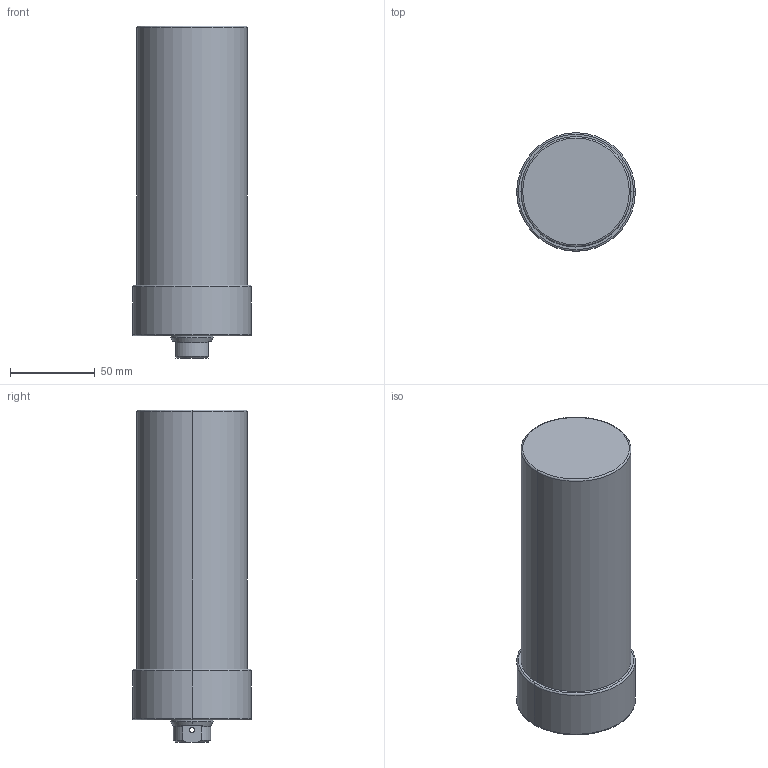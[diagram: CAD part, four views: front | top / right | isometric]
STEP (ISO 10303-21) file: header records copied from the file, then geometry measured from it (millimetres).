
FILE_DESCRIPTION (( 'STEP AP203' ), '1' );
FILE_NAME ('CLLU-065GB-120.STEP', '2020-01-07T06:46:21', ( '' ), ( '' ), 'SwSTEP 2.0', 'SolidWorks 2015', '' );
FILE_SCHEMA (( 'CONFIG_CONTROL_DESIGN' ));
Length unit declared in the file: millimetre
Products named in the file (1): CLLU-065GB-120
Bounding box: 70 x 70 x 196 mm (x, y, z)
Volume: 623525.9 mm3; surface area: 48324.4 mm2
Topology: 1 solids, 1 shells, 66 faces, 154 edges, 87 vertices
Faces by surface type: cylinder 26, cone 24, plane 10, torus 6
Entity records: 2001 total; most frequent: CARTESIAN_POINT 430, DIRECTION 342, ORIENTED_EDGE 288, EDGE_CURVE 144, AXIS2_PLACEMENT_3D 143, VERTEX_POINT 87, EDGE_LOOP 77, CIRCLE 76
